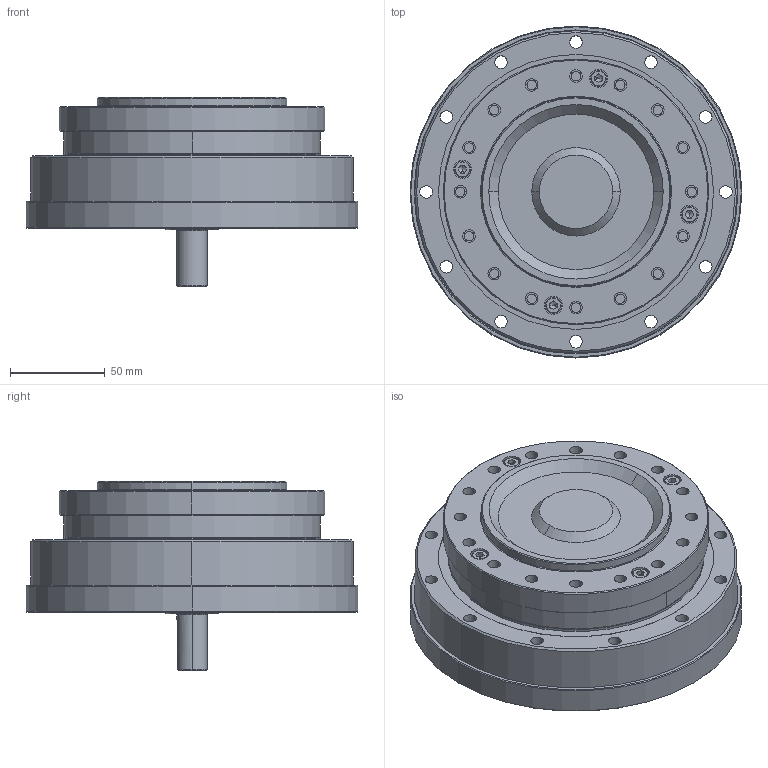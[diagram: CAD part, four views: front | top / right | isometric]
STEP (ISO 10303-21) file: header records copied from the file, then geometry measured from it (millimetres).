
FILE_DESCRIPTION (( 'STEP AP203' ), '1' );
FILE_NAME ('BHS-40-XXX-U-¢ô.STEP', '2019-01-15T05:53:53', ( 'User' ), ( 'China' ), 'SwSTEP 2.0', 'SolidWorks 2015', '' );
FILE_SCHEMA (( 'CONFIG_CONTROL_DESIGN' ));
Length unit declared in the file: millimetre
Products named in the file (1): BHS-40-XXX-U-ｌ
Bounding box: 175 x 175 x 100 mm (x, y, z)
Surface area: 108097.6 mm2 (no closed solid volume)
Topology: 0 solids, 20 shells, 300 faces, 824 edges, 548 vertices
Faces by surface type: cylinder 138, plane 91, cone 55, torus 16
Entity records: 9716 total; most frequent: DIRECTION 1846, CARTESIAN_POINT 1701, ORIENTED_EDGE 1382, EDGE_CURVE 816, AXIS2_PLACEMENT_3D 733, VERTEX_POINT 548, CIRCLE 432, EDGE_LOOP 397
